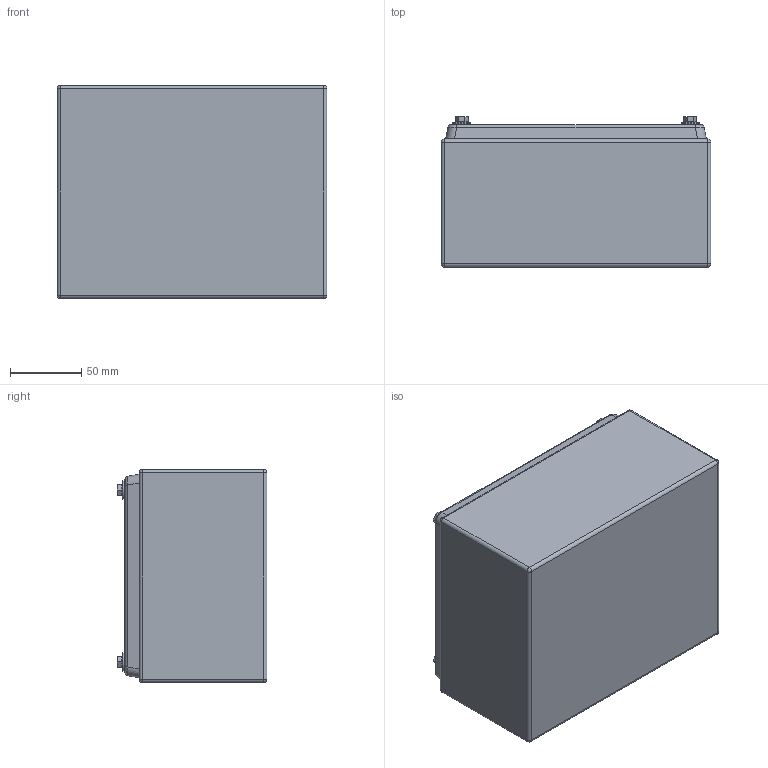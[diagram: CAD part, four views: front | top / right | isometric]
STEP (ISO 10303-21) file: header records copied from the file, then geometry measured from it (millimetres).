
FILE_DESCRIPTION (( 'STEP AP203' ), '1' );
FILE_NAME ('DE06-304A.STEP', '2021-02-23T13:05:16', ( '' ), ( '' ), 'SwSTEP 2.0', 'SolidWorks 2020', '' );
FILE_SCHEMA (( 'CONFIG_CONTROL_DESIGN' ));
Length unit declared in the file: millimetre
Products named in the file (1): DE06-304A
Bounding box: 190 x 105.6 x 150 mm (x, y, z)
Volume: 227686.4 mm3; surface area: 312495 mm2
Topology: 20 solids, 20 shells, 486 faces, 1153 edges, 732 vertices
Faces by surface type: plane 257, cylinder 177, cone 20, bspline 16, sphere 16
Entity records: 15354 total; most frequent: CARTESIAN_POINT 4056, DIRECTION 2341, ORIENTED_EDGE 2274, EDGE_CURVE 1137, AXIS2_PLACEMENT_3D 825, VERTEX_POINT 732, LINE 691, VECTOR 691
